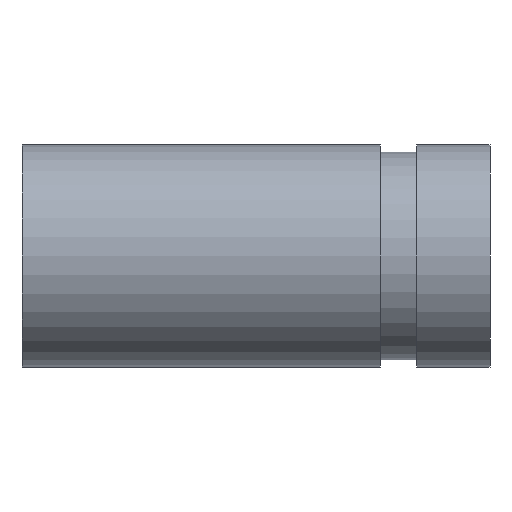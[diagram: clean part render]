
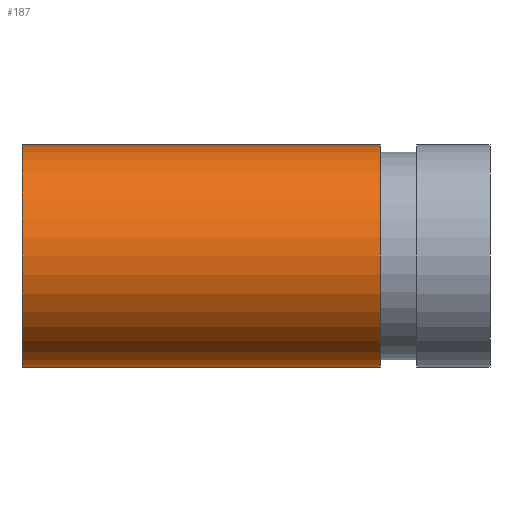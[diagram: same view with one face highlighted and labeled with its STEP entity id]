
A CAD part, front view. The second image highlights one B-rep face of the part: STEP entity #187.
In plain terms, the highlighted cylindrical face has radius 24.13 mm (diameter 48.26 mm), a full revolution.
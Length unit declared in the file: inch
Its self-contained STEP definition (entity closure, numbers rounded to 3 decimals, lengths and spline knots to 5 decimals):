
#53=FACE_OUTER_BOUND('',#61,.T.);
#61=EDGE_LOOP('',(#133,#134,#135,#136,#137,#138));
#73=LINE('',#339,#77);
#77=VECTOR('',#260,0.95);
#81=CIRCLE('',#216,0.95);
#82=CIRCLE('',#217,0.95);
#83=CIRCLE('',#218,0.95);
#84=CIRCLE('',#219,0.95);
#97=VERTEX_POINT('',#334);
#98=VERTEX_POINT('',#335);
#99=VERTEX_POINT('',#338);
#100=VERTEX_POINT('',#340);
#113=EDGE_CURVE('',#97,#98,#81,.T.);
#114=EDGE_CURVE('',#98,#97,#82,.T.);
#115=EDGE_CURVE('',#98,#99,#73,.T.);
#116=EDGE_CURVE('',#99,#100,#83,.T.);
#117=EDGE_CURVE('',#100,#99,#84,.T.);
#133=ORIENTED_EDGE('',*,*,#113,.F.);
#134=ORIENTED_EDGE('',*,*,#114,.F.);
#135=ORIENTED_EDGE('',*,*,#115,.T.);
#136=ORIENTED_EDGE('',*,*,#116,.T.);
#137=ORIENTED_EDGE('',*,*,#117,.T.);
#138=ORIENTED_EDGE('',*,*,#115,.F.);
#173=CYLINDRICAL_SURFACE('',#215,0.95);
#187=ADVANCED_FACE('',(#53),#173,.T.);
#215=AXIS2_PLACEMENT_3D('',#333,#254,#255);
#216=AXIS2_PLACEMENT_3D('',#336,#256,#257);
#217=AXIS2_PLACEMENT_3D('',#337,#258,#259);
#218=AXIS2_PLACEMENT_3D('',#341,#261,#262);
#219=AXIS2_PLACEMENT_3D('',#342,#263,#264);
#254=DIRECTION('center_axis',(1.,0.,0.));
#255=DIRECTION('ref_axis',(0.,1.,0.));
#256=DIRECTION('center_axis',(1.,0.,0.));
#257=DIRECTION('ref_axis',(0.,1.,0.));
#258=DIRECTION('center_axis',(1.,0.,0.));
#259=DIRECTION('ref_axis',(0.,1.,0.));
#260=DIRECTION('',(-1.,0.,0.));
#261=DIRECTION('center_axis',(1.,0.,0.));
#262=DIRECTION('ref_axis',(0.,1.,0.));
#263=DIRECTION('center_axis',(1.,0.,0.));
#264=DIRECTION('ref_axis',(0.,1.,0.));
#333=CARTESIAN_POINT('Origin',(0.061,0.,
0.));
#334=CARTESIAN_POINT('',(1.062,0.95,0.));
#335=CARTESIAN_POINT('',(1.062,-0.95,0.));
#336=CARTESIAN_POINT('Origin',(1.062,0.,0.));
#337=CARTESIAN_POINT('Origin',(1.062,0.,0.));
#338=CARTESIAN_POINT('',(-2.,-0.95,0.));
#339=CARTESIAN_POINT('',(0.061,-0.95,0.));
#340=CARTESIAN_POINT('',(-2.,0.95,0.));
#341=CARTESIAN_POINT('Origin',(-2.,0.,0.));
#342=CARTESIAN_POINT('Origin',(-2.,0.,0.));
